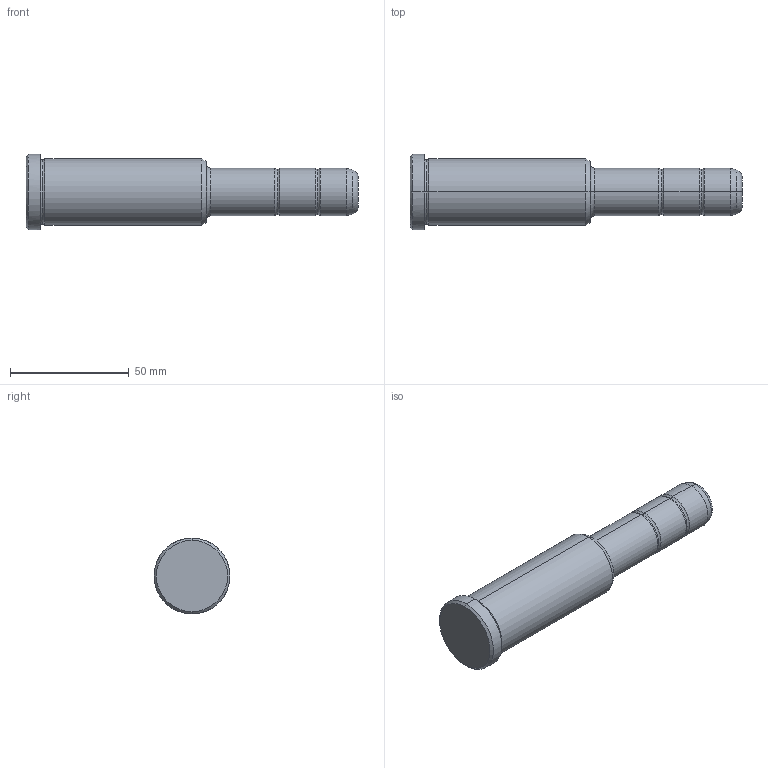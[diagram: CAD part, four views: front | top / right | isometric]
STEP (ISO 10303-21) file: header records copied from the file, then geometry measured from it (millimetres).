
FILE_DESCRIPTION(('CATIA V5 STEP Exchange'),'2;1');
FILE_NAME('C:\Users\Utente\Desktop\IO LAVORO\3D X SITO CF\X SITO\PLASTICA\351\351-20X76X140.stp','2021-08-27T13:10:36+00:00',('none'),('none'),'CATIA Version 5 Release 20 GA (IN-10)','CATIA V5 STEP AP203','none');
FILE_SCHEMA(('CONFIG_CONTROL_DESIGN'));
Length unit declared in the file: millimetre
Products named in the file (1): 351-20X76X140
Bounding box: 140 x 32 x 32 mm (x, y, z)
Volume: 67542.1 mm3; surface area: 12124.6 mm2
Topology: 1 solids, 1 shells, 36 faces, 102 edges, 70 vertices
Faces by surface type: torus 16, cylinder 10, cone 6, plane 4
Entity records: 1292 total; most frequent: CARTESIAN_POINT 321, ORIENTED_EDGE 204, DIRECTION 166, AXIS2_PLACEMENT_3D 115, EDGE_CURVE 102, CIRCLE 78, VERTEX_POINT 70, EDGE_LOOP 38
